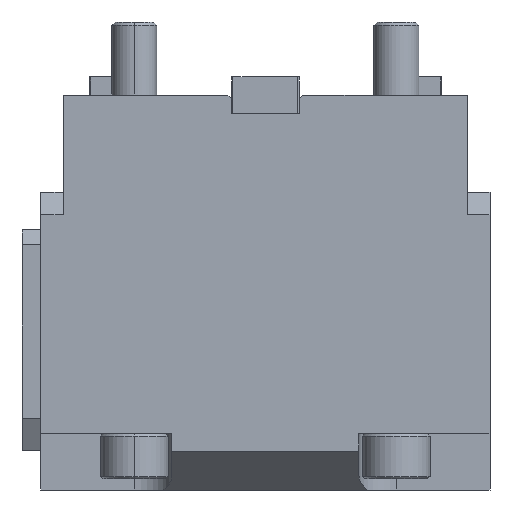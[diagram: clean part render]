
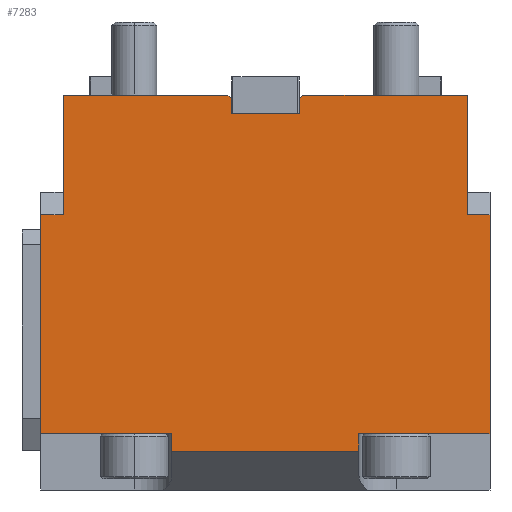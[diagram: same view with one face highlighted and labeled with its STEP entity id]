
A CAD part, front view. The second image highlights one B-rep face of the part: STEP entity #7283.
In plain terms, the highlighted planar face has unit normal (0, -1, 0).
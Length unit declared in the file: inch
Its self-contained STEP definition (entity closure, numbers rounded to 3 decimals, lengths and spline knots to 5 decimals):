
#33 = VERTEX_POINT ( 'NONE', #3729 ) ;
#67 = EDGE_CURVE ( 'NONE', #5919, #2492, #7252, .T. ) ;
#77 = VECTOR ( 'NONE', #6056, 39.37008 ) ;
#92 = ORIENTED_EDGE ( 'NONE', *, *, #2818, .T. ) ;
#135 = EDGE_CURVE ( 'NONE', #6026, #5913, #6349, .T. ) ;
#168 = ORIENTED_EDGE ( 'NONE', *, *, #1937, .F. ) ;
#224 = ORIENTED_EDGE ( 'NONE', *, *, #1663, .F. ) ;
#284 = FACE_OUTER_BOUND ( 'NONE', #5928, .T. ) ;
#351 = CARTESIAN_POINT ( 'NONE',  ( 2.12598, -1.88976, -1.25984 ) ) ;
#385 = EDGE_CURVE ( 'NONE', #4270, #6026, #971, .T. ) ;
#423 = DIRECTION ( 'NONE',  ( -1., 0., 0. ) ) ;
#610 = CARTESIAN_POINT ( 'NONE',  ( -0.35453, -1.88976, -0.19882 ) ) ;
#658 = AXIS2_PLACEMENT_3D ( 'NONE', #3118, #2706, #6098 ) ;
#687 = DIRECTION ( 'NONE',  ( 0., 0., 1. ) ) ;
#732 = LINE ( 'NONE', #3465, #6459 ) ;
#767 = EDGE_CURVE ( 'NONE', #2198, #4094, #1746, .T. ) ;
#812 = CARTESIAN_POINT ( 'NONE',  ( 2.12598, -1.88976, 0. ) ) ;
#971 = LINE ( 'NONE', #5324, #7240 ) ;
#1087 = CARTESIAN_POINT ( 'NONE',  ( -0.35453, -1.88976, -0.03937 ) ) ;
#1108 = CARTESIAN_POINT ( 'NONE',  ( -2.12598, -1.88976, -1.25984 ) ) ;
#1117 = EDGE_CURVE ( 'NONE', #1572, #6576, #7269, .T. ) ;
#1203 = CARTESIAN_POINT ( 'NONE',  ( -2.3622, -1.88976, 0. ) ) ;
#1253 = EDGE_CURVE ( 'NONE', #33, #4322, #3965, .T. ) ;
#1312 = VECTOR ( 'NONE', #5325, 39.37008 ) ;
#1317 = DIRECTION ( 'NONE',  ( 0., 0., 1. ) ) ;
#1483 = DIRECTION ( 'NONE',  ( 0., 0., -1. ) ) ;
#1568 = CARTESIAN_POINT ( 'NONE',  ( 2.12598, -1.88976, -1.25984 ) ) ;
#1572 = VERTEX_POINT ( 'NONE', #3636 ) ;
#1610 = CARTESIAN_POINT ( 'NONE',  ( 0.98425, -1.88976, -3.56299 ) ) ;
#1612 = ORIENTED_EDGE ( 'NONE', *, *, #385, .T. ) ;
#1615 = DIRECTION ( 'NONE',  ( -1., 0., 0. ) ) ;
#1663 = EDGE_CURVE ( 'NONE', #5000, #3772, #5885, .T. ) ;
#1683 = DIRECTION ( 'NONE',  ( -1., 0., 0. ) ) ;
#1746 = LINE ( 'NONE', #5926, #5218 ) ;
#1800 = VECTOR ( 'NONE', #4967, 39.37008 ) ;
#1917 = CARTESIAN_POINT ( 'NONE',  ( -2.3622, -1.88976, -3.7444 ) ) ;
#1937 = EDGE_CURVE ( 'NONE', #4822, #4322, #2342, .T. ) ;
#1961 = VECTOR ( 'NONE', #6360, 39.37008 ) ;
#1974 = VECTOR ( 'NONE', #4396, 39.37008 ) ;
#2106 = ORIENTED_EDGE ( 'NONE', *, *, #6067, .F. ) ;
#2143 = DIRECTION ( 'NONE',  ( 1., 0., 0. ) ) ;
#2160 = ORIENTED_EDGE ( 'NONE', *, *, #67, .F. ) ;
#2198 = VERTEX_POINT ( 'NONE', #3355 ) ;
#2273 = VECTOR ( 'NONE', #1683, 39.37008 ) ;
#2342 = LINE ( 'NONE', #1610, #1974 ) ;
#2361 = VERTEX_POINT ( 'NONE', #3977 ) ;
#2394 = LINE ( 'NONE', #6626, #6152 ) ;
#2492 = VERTEX_POINT ( 'NONE', #3601 ) ;
#2521 = PLANE ( 'NONE',  #658 ) ;
#2689 = VECTOR ( 'NONE', #1615, 39.37008 ) ;
#2706 = DIRECTION ( 'NONE',  ( 0., 1., 0. ) ) ;
#2767 = VECTOR ( 'NONE', #5078, 39.37008 ) ;
#2818 = EDGE_CURVE ( 'NONE', #2198, #4270, #6272, .T. ) ;
#2896 = ORIENTED_EDGE ( 'NONE', *, *, #3717, .T. ) ;
#3118 = CARTESIAN_POINT ( 'NONE',  ( 0., -1.88976, 0. ) ) ;
#3166 = VERTEX_POINT ( 'NONE', #6087 ) ;
#3267 = EDGE_CURVE ( 'NONE', #4326, #2361, #3785, .T. ) ;
#3355 = CARTESIAN_POINT ( 'NONE',  ( 2.3622, -1.88976, -1.25984 ) ) ;
#3363 = CARTESIAN_POINT ( 'NONE',  ( 2.3622, -1.88976, -3.56299 ) ) ;
#3380 = CARTESIAN_POINT ( 'NONE',  ( -2.3622, -1.88976, -1.25984 ) ) ;
#3406 = VECTOR ( 'NONE', #5356, 39.37008 ) ;
#3414 = EDGE_CURVE ( 'NONE', #4394, #3166, #732, .T. ) ;
#3465 = CARTESIAN_POINT ( 'NONE',  ( 2.12598, -1.88976, 0. ) ) ;
#3472 = ORIENTED_EDGE ( 'NONE', *, *, #3414, .T. ) ;
#3559 = LINE ( 'NONE', #6527, #3406 ) ;
#3601 = CARTESIAN_POINT ( 'NONE',  ( -2.3622, -1.88976, -3.56299 ) ) ;
#3636 = CARTESIAN_POINT ( 'NONE',  ( -0.35453, -1.88976, -0.19882 ) ) ;
#3658 = LINE ( 'NONE', #3363, #2689 ) ;
#3701 = CARTESIAN_POINT ( 'NONE',  ( 2.3622, -1.88976, -3.56299 ) ) ;
#3717 = EDGE_CURVE ( 'NONE', #5919, #33, #7366, .T. ) ;
#3729 = CARTESIAN_POINT ( 'NONE',  ( -0.98425, -1.88976, -3.7444 ) ) ;
#3772 = VERTEX_POINT ( 'NONE', #4917 ) ;
#3785 = LINE ( 'NONE', #3380, #2273 ) ;
#3833 = VECTOR ( 'NONE', #7073, 39.37008 ) ;
#3838 = LINE ( 'NONE', #1203, #1961 ) ;
#3965 = LINE ( 'NONE', #1917, #5123 ) ;
#3977 = CARTESIAN_POINT ( 'NONE',  ( -2.3622, -1.88976, -1.25984 ) ) ;
#4021 = DIRECTION ( 'NONE',  ( -1., 0., 0. ) ) ;
#4094 = VERTEX_POINT ( 'NONE', #3701 ) ;
#4270 = VERTEX_POINT ( 'NONE', #351 ) ;
#4322 = VERTEX_POINT ( 'NONE', #4507 ) ;
#4326 = VERTEX_POINT ( 'NONE', #1108 ) ;
#4344 = VECTOR ( 'NONE', #1483, 39.37008 ) ;
#4379 = CARTESIAN_POINT ( 'NONE',  ( -0.98425, -1.88976, -3.56299 ) ) ;
#4394 = VERTEX_POINT ( 'NONE', #6224 ) ;
#4396 = DIRECTION ( 'NONE',  ( 0., 0., -1. ) ) ;
#4507 = CARTESIAN_POINT ( 'NONE',  ( 0.98425, -1.88976, -3.7444 ) ) ;
#4518 = CARTESIAN_POINT ( 'NONE',  ( -2.12598, -1.88976, 0. ) ) ;
#4620 = ORIENTED_EDGE ( 'NONE', *, *, #1253, .T. ) ;
#4626 = ORIENTED_EDGE ( 'NONE', *, *, #4916, .T. ) ;
#4756 = EDGE_CURVE ( 'NONE', #4094, #4822, #3658, .T. ) ;
#4795 = ORIENTED_EDGE ( 'NONE', *, *, #5051, .T. ) ;
#4822 = VERTEX_POINT ( 'NONE', #6166 ) ;
#4916 = EDGE_CURVE ( 'NONE', #2361, #2492, #3838, .T. ) ;
#4917 = CARTESIAN_POINT ( 'NONE',  ( 0.35453, -1.88976, -0.03937 ) ) ;
#4967 = DIRECTION ( 'NONE',  ( -1., 0., 0. ) ) ;
#5000 = VERTEX_POINT ( 'NONE', #5979 ) ;
#5051 = EDGE_CURVE ( 'NONE', #5913, #3772, #5526, .T. ) ;
#5078 = DIRECTION ( 'NONE',  ( 0., 0., -1. ) ) ;
#5083 = ORIENTED_EDGE ( 'NONE', *, *, #4756, .F. ) ;
#5123 = VECTOR ( 'NONE', #5942, 39.37008 ) ;
#5218 = VECTOR ( 'NONE', #5316, 39.37008 ) ;
#5315 = CARTESIAN_POINT ( 'NONE',  ( 0.35453, -1.88976, -0.03937 ) ) ;
#5316 = DIRECTION ( 'NONE',  ( 0., 0., -1. ) ) ;
#5324 = CARTESIAN_POINT ( 'NONE',  ( 2.12598, -1.88976, 0. ) ) ;
#5325 = DIRECTION ( 'NONE',  ( 0., 0., 1. ) ) ;
#5356 = DIRECTION ( 'NONE',  ( -0.707, 0., 0.707 ) ) ;
#5526 = LINE ( 'NONE', #5315, #3833 ) ;
#5571 = VECTOR ( 'NONE', #687, 39.37008 ) ;
#5621 = CARTESIAN_POINT ( 'NONE',  ( 2.12598, -1.88976, 0. ) ) ;
#5702 = EDGE_CURVE ( 'NONE', #6576, #4394, #3559, .T. ) ;
#5730 = VECTOR ( 'NONE', #423, 39.37008 ) ;
#5801 = CARTESIAN_POINT ( 'NONE',  ( 0.3939, -1.88976, 0. ) ) ;
#5878 = EDGE_CURVE ( 'NONE', #3166, #4326, #7008, .T. ) ;
#5880 = CARTESIAN_POINT ( 'NONE',  ( 0.35453, -1.88976, -0.19882 ) ) ;
#5885 = LINE ( 'NONE', #5880, #1312 ) ;
#5913 = VERTEX_POINT ( 'NONE', #5801 ) ;
#5919 = VERTEX_POINT ( 'NONE', #6598 ) ;
#5926 = CARTESIAN_POINT ( 'NONE',  ( 2.3622, -1.88976, 0. ) ) ;
#5928 = EDGE_LOOP ( 'NONE', ( #6682, #6673, #4626, #2160, #2896, #4620, #168, #5083, #6404, #92, #1612, #7091, #4795, #224, #2106, #6799, #6195, #3472 ) ) ;
#5942 = DIRECTION ( 'NONE',  ( 1., 0., 0. ) ) ;
#5979 = CARTESIAN_POINT ( 'NONE',  ( 0.35453, -1.88976, -0.19882 ) ) ;
#5983 = CARTESIAN_POINT ( 'NONE',  ( -2.3622, -1.88976, -3.56299 ) ) ;
#6026 = VERTEX_POINT ( 'NONE', #812 ) ;
#6056 = DIRECTION ( 'NONE',  ( -1., 0., 0. ) ) ;
#6067 = EDGE_CURVE ( 'NONE', #1572, #5000, #2394, .T. ) ;
#6087 = CARTESIAN_POINT ( 'NONE',  ( -2.12598, -1.88976, 0. ) ) ;
#6098 = DIRECTION ( 'NONE',  ( 1., 0., 0. ) ) ;
#6152 = VECTOR ( 'NONE', #2143, 39.37008 ) ;
#6166 = CARTESIAN_POINT ( 'NONE',  ( 0.98425, -1.88976, -3.56299 ) ) ;
#6195 = ORIENTED_EDGE ( 'NONE', *, *, #5702, .T. ) ;
#6224 = CARTESIAN_POINT ( 'NONE',  ( -0.3939, -1.88976, 0. ) ) ;
#6272 = LINE ( 'NONE', #1568, #5730 ) ;
#6349 = LINE ( 'NONE', #5621, #1800 ) ;
#6360 = DIRECTION ( 'NONE',  ( 0., 0., -1. ) ) ;
#6404 = ORIENTED_EDGE ( 'NONE', *, *, #767, .F. ) ;
#6459 = VECTOR ( 'NONE', #4021, 39.37008 ) ;
#6527 = CARTESIAN_POINT ( 'NONE',  ( -0.35453, -1.88976, -0.03937 ) ) ;
#6576 = VERTEX_POINT ( 'NONE', #1087 ) ;
#6598 = CARTESIAN_POINT ( 'NONE',  ( -0.98425, -1.88976, -3.56299 ) ) ;
#6626 = CARTESIAN_POINT ( 'NONE',  ( 0.35453, -1.88976, -0.19882 ) ) ;
#6673 = ORIENTED_EDGE ( 'NONE', *, *, #3267, .T. ) ;
#6682 = ORIENTED_EDGE ( 'NONE', *, *, #5878, .T. ) ;
#6799 = ORIENTED_EDGE ( 'NONE', *, *, #1117, .T. ) ;
#7008 = LINE ( 'NONE', #4518, #2767 ) ;
#7073 = DIRECTION ( 'NONE',  ( -0.707, 0., -0.707 ) ) ;
#7091 = ORIENTED_EDGE ( 'NONE', *, *, #135, .T. ) ;
#7240 = VECTOR ( 'NONE', #1317, 39.37008 ) ;
#7252 = LINE ( 'NONE', #5983, #77 ) ;
#7269 = LINE ( 'NONE', #610, #5571 ) ;
#7283 = ADVANCED_FACE ( 'NONE', ( #284 ), #2521, .F. ) ;
#7366 = LINE ( 'NONE', #4379, #4344 ) ;
